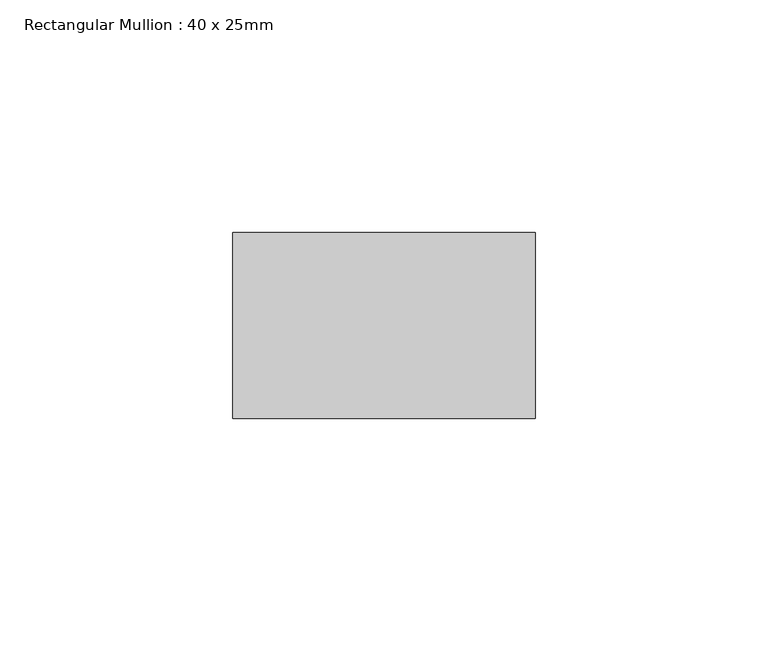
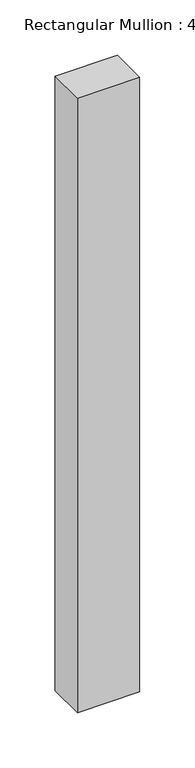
"""IFC4 building model written with IfcOpenShell, lengths in millimetres: member geometry, Rectangular Mullion : 40 x 25mm."""

from ifc_helpers import new_model, si_unit, frame, origin, place, context, project, spatial, polyline, outline, extrude, source, transform, mapped, element, save


def rectangular_mullion_40_x_25mm_9ff5eb6c(model_context):
    return source(origin(), model_context, "Body", "SweptSolid", [
        extrude(outline(polyline([(0.0, -20.0), (0.0, -60.0), (-65.0, -60.0), (-65.0, -20.0), (0.0, -20.0)])), frame((0.0, 0.0, -676.9280032), z_axis=(0.0, 0.0, 1.0), x_axis=(1.0, 0.0, 0.0)), (0.0, 0.0, 1.0), 676.9280032),
    ])


if __name__ == "__main__":
    model = new_model("IFC4")
    model_context = context("Model", 3, world=origin())
    ifc_project = project(units=[si_unit("LENGTHUNIT", "METRE", prefix="MILLI")], contexts=[model_context])
    site = spatial("IfcSite", under=ifc_project)
    building = spatial("IfcBuilding", under=site)
    placement = place(None, origin())
    rectangular_mullion_40_x_25mm_shape = rectangular_mullion_40_x_25mm_9ff5eb6c(model_context)
    element("IfcMember", 1, ObjectType="Rectangular Mullion : 40 x 25mm", at=placement, inside=building, context=model_context, shape_type="MappedRepresentation", body=[
        mapped(rectangular_mullion_40_x_25mm_shape, transform((0.0, 0.0, 0.0), x_axis=(1.0, 0.0, 0.0), y_axis=(0.0, 1.0, 0.0), z_axis=(0.0, 0.0, 1.0))),
    ])
    save(model, "model.ifc")
